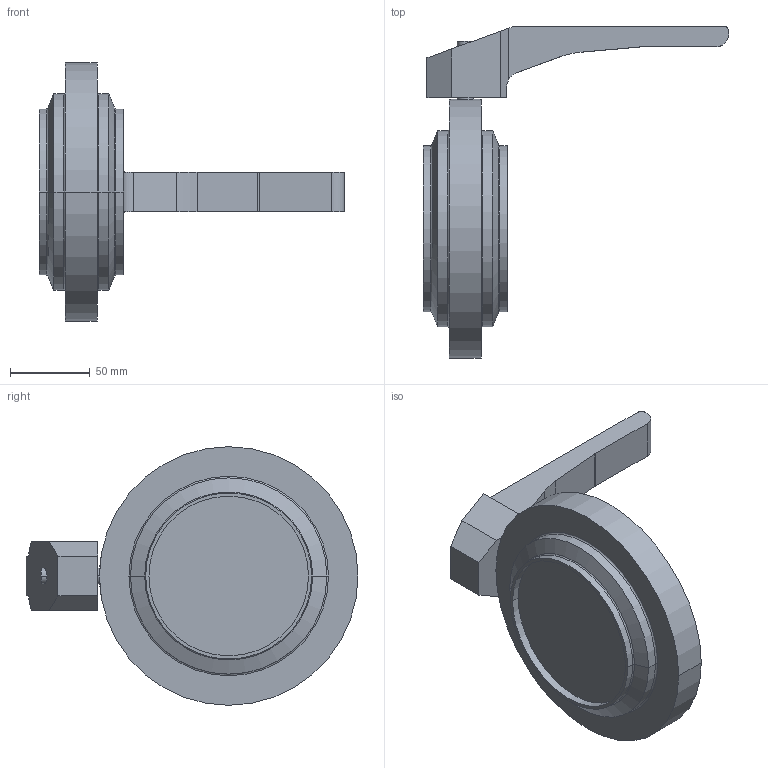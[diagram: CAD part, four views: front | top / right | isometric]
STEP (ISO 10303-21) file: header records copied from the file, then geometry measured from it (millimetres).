
FILE_DESCRIPTION(('OneSpaceDesigner STEP Export'),'2;1');
FILE_NAME('SV1-100-H-12S.stp','2007-04-19T14:57:22',(''),(''),'OneSpace Designer STEP processor for AP214 (Solid Model)','OneSpace Modeling 15.00 06-Feb-2007 (C) CoCreate Software GmbH','');
FILE_SCHEMA(('AUTOMOTIVE_DESIGN { 1 0 10303 214 1 1 1 1 }'));
Length unit declared in the file: millimetre
Products named in the file (3): SV1-100-H-12S; Handhebel-SV-40-100; SV1-100-H-12S-vereint
Assembly tree (2 placements, depth 2):
  SV1-100-H-12S-vereint
    Handhebel-SV-40-100
    SV1-100-H-12S
Bounding box: 191.2 x 208 x 162 mm (x, y, z)
Volume: 797850.1 mm3; surface area: 84676.1 mm2
Topology: 2 solids, 2 shells, 60 faces, 135 edges, 84 vertices
Faces by surface type: plane 25, cylinder 23, torus 8, cone 4
Entity records: 1955 total; most frequent: CARTESIAN_POINT 635, ORIENTED_EDGE 270, DIRECTION 247, EDGE_CURVE 135, AXIS2_PLACEMENT_3D 89, VERTEX_POINT 84, VECTOR 69, LINE 69
